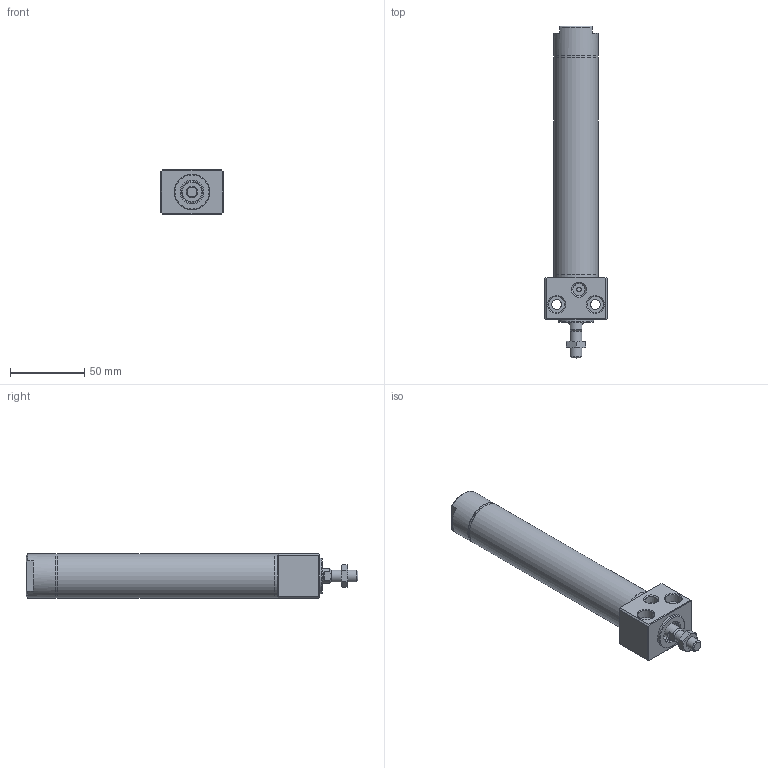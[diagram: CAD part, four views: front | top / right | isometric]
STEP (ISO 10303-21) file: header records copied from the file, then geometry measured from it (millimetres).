
FILE_DESCRIPTION((''),'2;1');
FILE_NAME('I:\3D電子目錄\氣缸\DBS\DBS\DBS25x100.stp','2007-10-08T08:34:24',('Administrator'),(''),'Autodesk Inventor 2008','Autodesk Inventor 2008','');
FILE_SCHEMA(('AUTOMOTIVE_DESIGN { 1 0 10303 214 1 1 1 1 }'));
Length unit declared in the file: millimetre
Products named in the file (1): DBS25x100
Bounding box: 42 x 223.6 x 30 mm (x, y, z)
Volume: 86053.5 mm3; surface area: 44865.3 mm2
Topology: 6 solids, 6 shells, 163 faces, 317 edges, 192 vertices
Faces by surface type: plane 72, cone 41, cylinder 35, bspline 12, torus 3
Full cylindrical faces by diameter (mm): 3 x1, 5 x1, 6 x1, 7 x1, 8 x2, 10 x1, 10.5 x1, 12 x1, 13 x2, 14 x1, 15.5 x2, 16 x2, 17 x1, 18 x2, 23 x2, 24 x1, 25 x1, 25.5 x2, 27.2 x6, 30 x4
Entity records: 3973 total; most frequent: CARTESIAN_POINT 911, DIRECTION 644, ORIENTED_EDGE 484, AXIS2_PLACEMENT_3D 284, EDGE_LOOP 278, EDGE_CURVE 242, VERTEX_POINT 188, FACE_OUTER_BOUND 163
